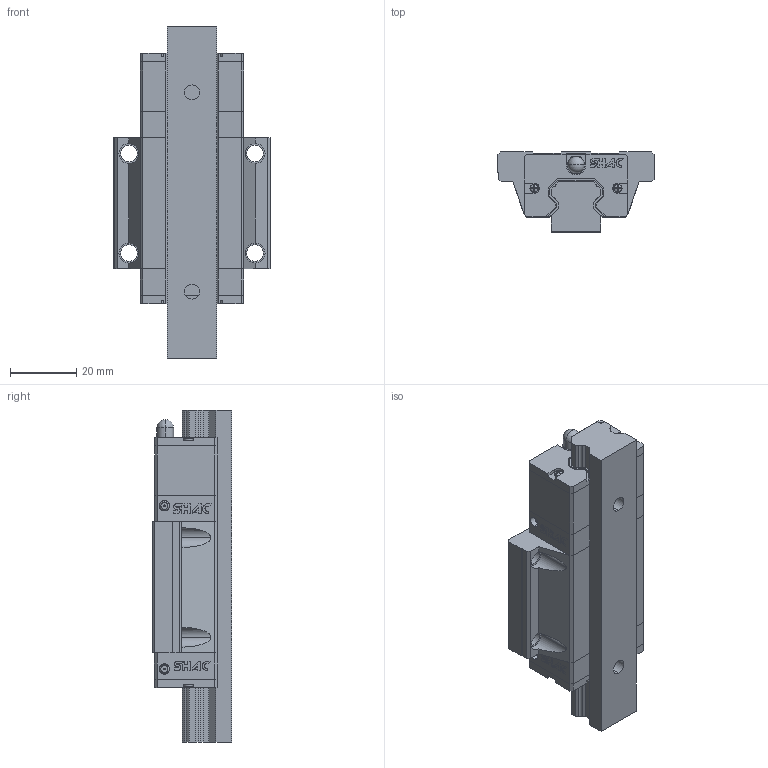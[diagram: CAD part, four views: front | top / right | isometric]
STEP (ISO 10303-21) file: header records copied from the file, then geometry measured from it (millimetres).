
FILE_DESCRIPTION (( 'STEP AP214' ), '1' );
FILE_NAME ('STP_GHW15CC_(E2)自润式_(R)上锁式_刮油片＋防尘条_1_100_100_GHW15CC_GHW15CC.step', '2020-06-27T02:01:17', ( 'IT Division' ), ( 'IT' ), 'SwSTEP 2.0', 'SolidWorks 2016', '' );
FILE_SCHEMA (( 'AUTOMOTIVE_DESIGN' ));
Length unit declared in the file: millimetre
Products named in the file (3): STP_GHW15CC_(E2)自润式_(R)上锁式_刮油片＋防尘条_1_100_100_GHW15CC_GHW15CC_2; STP_GHW15CC_(E2)自润式_(R)上锁式_刮油片＋防尘条_1_100_100_GHW15CC_GHW15CC; STP_GHW15CC_(E2)自润式_(R)上锁式_刮油片＋防尘条_1_100_100_GHW15CC_GHW15CC_1
Assembly tree (2 placements, depth 2):
  STP_GHW15CC_(E2)自润式_(R)上锁式_刮油片＋防尘条_1_100_100_GHW15CC_GHW15CC
    STP_GHW15CC_(E2)自润式_(R)上锁式_刮油片＋防尘条_1_100_100_GHW15CC_GHW15CC_1
    STP_GHW15CC_(E2)自润式_(R)上锁式_刮油片＋防尘条_1_100_100_GHW15CC_GHW15CC_2
Bounding box: 47 x 24 x 100 mm (x, y, z)
Volume: 59844.5 mm3; surface area: 24020.9 mm2
Topology: 8 solids, 8 shells, 819 faces, 2244 edges, 1487 vertices
Faces by surface type: plane 632, cylinder 154, torus 16, sphere 10, cone 7
Entity records: 29710 total; most frequent: CARTESIAN_POINT 4625, ORIENTED_EDGE 4480, DIRECTION 4288, EDGE_CURVE 2240, VECTOR 1800, LINE 1800, VERTEX_POINT 1485, AXIS2_PLACEMENT_3D 1244
